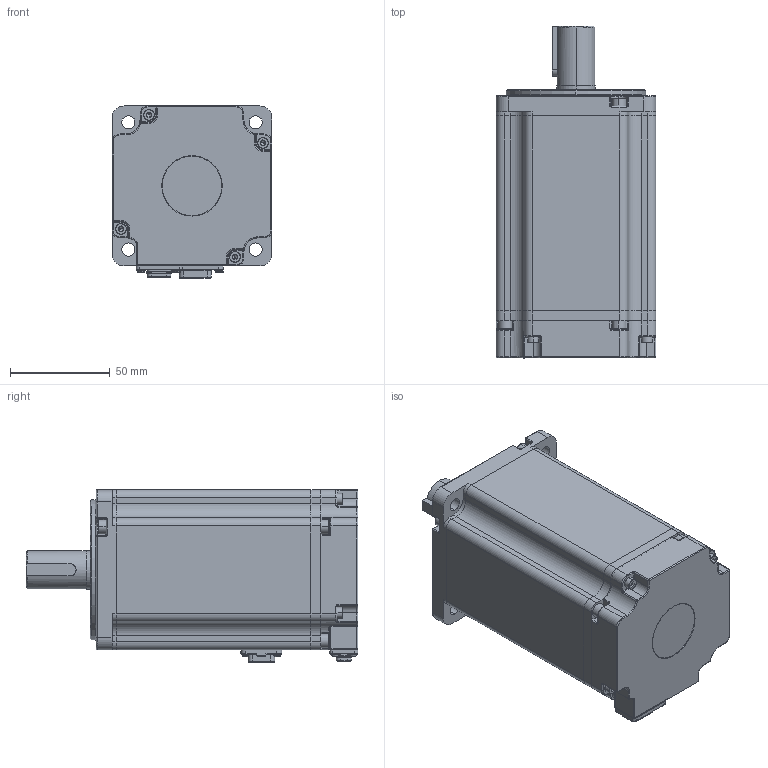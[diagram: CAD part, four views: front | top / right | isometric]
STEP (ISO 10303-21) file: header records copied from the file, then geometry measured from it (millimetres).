
FILE_DESCRIPTION (( 'STEP AP214' ), '1' );
FILE_NAME ('56长铁芯 无刹车 中惯量.STEP', '2021-08-20T01:44:56', ( '' ), ( '' ), 'SwSTEP 2.0', 'SolidWorks 2014', '' );
FILE_SCHEMA (( 'AUTOMOTIVE_DESIGN' ));
Length unit declared in the file: millimetre
Products named in the file (17): SC40陔晤鎢ん瑤脣釱sc-mc7p-a6-zhichuxianchazuo; 80#陔晤鎢ん欶; 囀鞠褒 ISO 4762 M4 x12--20201221; 80#陔ヶ傷裔; 普通型 平键   C 6x6x25 带M3起键螺钉孔; 囀鞠褒 ISO 4762 M3 x 12 --- 12N; 80#陔綴傷裔; 1000w 笢嫦講 儂褲; 750W隅赽郪璃; 囀鞠褒 M3X8; 粟菜 M3; 60-80蚳蚚雄薯脣釱-sc-mc6p-ac-goubanchazuo; す菜 M3; 1000W笢嫦講萇儂-粣; 56长铁芯 无刹车 中惯量; 80#陔晤鎢ん欶躇猾菜; 蚐猾 D00B999YF5-TC 20-30-5-1
Assembly tree (26 placements, depth 3):
  56长铁芯 无刹车 中惯量
    750W隅赽郪璃
      1000w 笢嫦講 儂褲
      80#陔ヶ傷裔
      60-80蚳蚚雄薯脣釱-sc-mc6p-ac-goubanchazuo
    80#陔綴傷裔
    80#陔晤鎢ん欶
    SC40陔晤鎢ん瑤脣釱sc-mc7p-a6-zhichuxianchazuo
    80#陔晤鎢ん欶躇猾菜
    蚐猾 D00B999YF5-TC 20-30-5-1
    1000W笢嫦講萇儂-粣
    囀鞠褒 ISO 4762 M4 x12--20201221  x8
    す菜 M3
    粟菜 M3
    囀鞠褒 M3X8
    普通型 平键   C 6x6x25 带M3起键螺钉孔
    囀鞠褒 ISO 4762 M3 x 12 --- 12N  x4
Bounding box: 80 x 166 x 86.1 mm (x, y, z)
Volume: 277073.9 mm3; surface area: 141873.6 mm2
Topology: 34 solids, 34 shells, 4197 faces, 10383 edges, 6302 vertices
Faces by surface type: plane 1899, cylinder 1407, bspline 350, cone 229, torus 214, sphere 98
Entity records: 141903 total; most frequent: CARTESIAN_POINT 47871, ORIENTED_EDGE 19322, DIRECTION 18968, EDGE_CURVE 9661, AXIS2_PLACEMENT_3D 6604, VERTEX_POINT 5948, VECTOR 5760, LINE 5760
